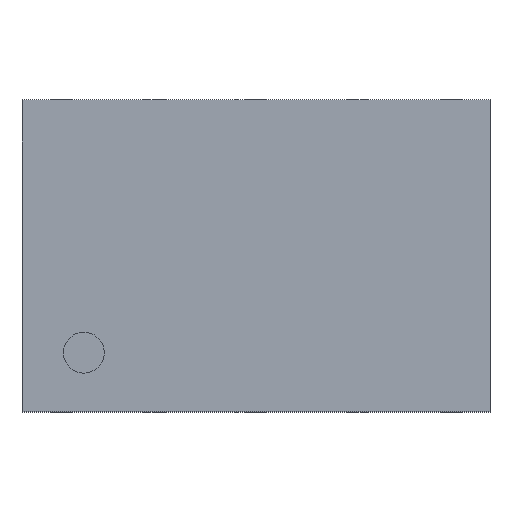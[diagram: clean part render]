
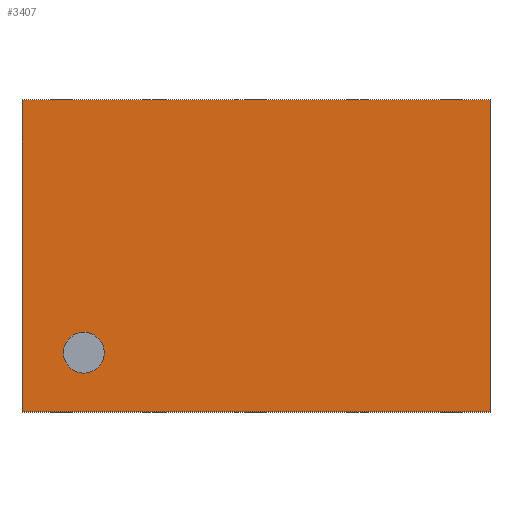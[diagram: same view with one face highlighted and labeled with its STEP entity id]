
A CAD part, top view. The second image highlights one B-rep face of the part: STEP entity #3407.
In plain terms, the highlighted planar face has unit normal (0, 0, 1).
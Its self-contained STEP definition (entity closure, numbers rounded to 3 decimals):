
#111=CIRCLE('',#3896,0.131);
#807=ORIENTED_EDGE('',*,*,#1410,.T.);
#808=ORIENTED_EDGE('',*,*,#1401,.T.);
#809=ORIENTED_EDGE('',*,*,#1404,.T.);
#810=ORIENTED_EDGE('',*,*,#1407,.T.);
#811=ORIENTED_EDGE('',*,*,#1409,.T.);
#1401=EDGE_CURVE('',#1758,#1761,#2130,.T.);
#1404=EDGE_CURVE('',#1761,#1763,#2133,.T.);
#1407=EDGE_CURVE('',#1763,#1765,#2136,.T.);
#1409=EDGE_CURVE('',#1765,#1758,#2138,.T.);
#1410=EDGE_CURVE('',#1766,#1766,#111,.T.);
#1758=VERTEX_POINT('',#5619);
#1761=VERTEX_POINT('',#5624);
#1763=VERTEX_POINT('',#5630);
#1765=VERTEX_POINT('',#5636);
#1766=VERTEX_POINT('',#5643);
#2130=LINE('',#5625,#2541);
#2133=LINE('',#5631,#2544);
#2136=LINE('',#5637,#2547);
#2138=LINE('',#5640,#2549);
#2541=VECTOR('',#4645,1000.);
#2544=VECTOR('',#4650,1000.);
#2547=VECTOR('',#4655,1000.);
#2549=VECTOR('',#4659,1000.);
#2813=EDGE_LOOP('',(#807));
#2814=EDGE_LOOP('',(#808,#809,#810,#811));
#3022=FACE_BOUND('',#2813,.T.);
#3023=FACE_BOUND('',#2814,.T.);
#3201=PLANE('',#3895);
#3407=ADVANCED_FACE('',(#3022,#3023),#3201,.T.);
#3895=AXIS2_PLACEMENT_3D('',#5641,#4660,#4661);
#3896=AXIS2_PLACEMENT_3D('',#5642,#4662,#4663);
#4645=DIRECTION('',(1.,0.,0.));
#4650=DIRECTION('',(0.,1.,0.));
#4655=DIRECTION('',(-1.,0.,0.));
#4659=DIRECTION('',(0.,-1.,0.));
#4660=DIRECTION('',(0.,0.,1.));
#4661=DIRECTION('',(1.,0.,0.));
#4662=DIRECTION('',(0.,0.,-1.));
#4663=DIRECTION('',(0.,1.,0.));
#5619=CARTESIAN_POINT('',(-1.5,-1.,0.42));
#5624=CARTESIAN_POINT('',(1.5,-1.,0.42));
#5625=CARTESIAN_POINT('',(-1.5,-1.,0.42));
#5630=CARTESIAN_POINT('',(1.5,1.,0.42));
#5631=CARTESIAN_POINT('',(1.5,-1.,0.42));
#5636=CARTESIAN_POINT('',(-1.5,1.,0.42));
#5637=CARTESIAN_POINT('',(1.5,1.,0.42));
#5640=CARTESIAN_POINT('',(-1.5,1.,0.42));
#5641=CARTESIAN_POINT('',(0.,0.,0.42));
#5642=CARTESIAN_POINT('',(-1.104,-0.621,0.42));
#5643=CARTESIAN_POINT('',(-1.104,-0.49,0.42));
